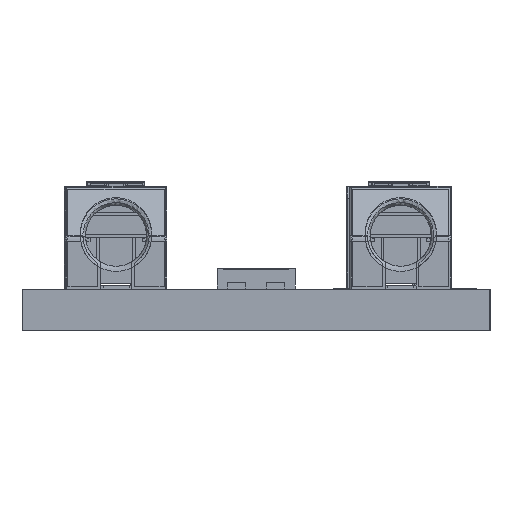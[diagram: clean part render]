
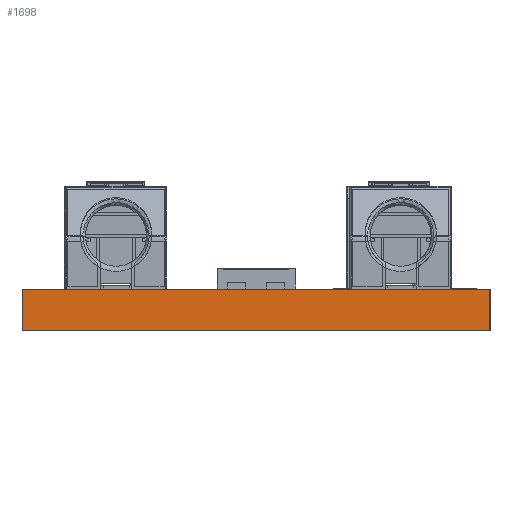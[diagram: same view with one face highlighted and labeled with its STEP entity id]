
A CAD part, left-side view. The second image highlights one B-rep face of the part: STEP entity #1698.
In plain terms, the highlighted planar face has unit normal (-1, 0, 0).
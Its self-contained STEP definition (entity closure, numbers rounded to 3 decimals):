
#1698=ADVANCED_FACE('',(#5332),#3527,.F.);
#3527=PLANE('',#40967);
#5332=FACE_OUTER_BOUND('',#7319,.T.);
#7319=EDGE_LOOP('',(#14152,#14153,#14154,#14155));
#14152=ORIENTED_EDGE('',*,*,#25571,.T.);
#14153=ORIENTED_EDGE('',*,*,#25572,.F.);
#14154=ORIENTED_EDGE('',*,*,#25573,.F.);
#14155=ORIENTED_EDGE('',*,*,#25569,.T.);
#20996=VERTEX_POINT('',#76582);
#20997=VERTEX_POINT('',#76584);
#20998=VERTEX_POINT('',#76596);
#20999=VERTEX_POINT('',#76598);
#25569=EDGE_CURVE('',#20997,#20996,#32353,.T.);
#25571=EDGE_CURVE('',#20996,#20998,#28180,.T.);
#25572=EDGE_CURVE('',#20999,#20998,#32354,.T.);
#25573=EDGE_CURVE('',#20997,#20999,#28181,.T.);
#28180=(
BOUNDED_CURVE()
B_SPLINE_CURVE(4,(#76591,#76592,#76593,#76594,#76595),.UNSPECIFIED.,.F.,
 .F.)
B_SPLINE_CURVE_WITH_KNOTS((5,5),(0.,1.),.UNSPECIFIED.)
CURVE()
GEOMETRIC_REPRESENTATION_ITEM()
RATIONAL_B_SPLINE_CURVE((1.,1.,1.,1.,1.))
REPRESENTATION_ITEM('')
);
#28181=(
BOUNDED_CURVE()
B_SPLINE_CURVE(4,(#76599,#76600,#76601,#76602,#76603),.UNSPECIFIED.,.F.,
 .F.)
B_SPLINE_CURVE_WITH_KNOTS((5,5),(0.,1.),.UNSPECIFIED.)
CURVE()
GEOMETRIC_REPRESENTATION_ITEM()
RATIONAL_B_SPLINE_CURVE((1.,1.,1.,1.,1.))
REPRESENTATION_ITEM('')
);
#32353=LINE('',#76583,#37482);
#32354=LINE('',#76597,#37483);
#37482=VECTOR('',#47596,1.);
#37483=VECTOR('',#47599,1.);
#40967=AXIS2_PLACEMENT_3D('',#76604,#47600,#47601);
#47596=DIRECTION('',(0.,0.,1.));
#47599=DIRECTION('',(0.,0.,1.));
#47600=DIRECTION('',(1.,0.,0.));
#47601=DIRECTION('',(0.,0.,-1.));
#76582=CARTESIAN_POINT('',(0.,0.,0.));
#76583=CARTESIAN_POINT('',(0.,0.,-1.6));
#76584=CARTESIAN_POINT('',(0.,0.,-1.6));
#76591=CARTESIAN_POINT('',(0.,0.,0.));
#76592=CARTESIAN_POINT('',(0.,4.5,0.));
#76593=CARTESIAN_POINT('',(0.,8.999,0.));
#76594=CARTESIAN_POINT('',(0.,13.499,0.));
#76595=CARTESIAN_POINT('',(0.,17.999,0.));
#76596=CARTESIAN_POINT('',(0.,17.999,0.));
#76597=CARTESIAN_POINT('',(0.,17.999,-1.6));
#76598=CARTESIAN_POINT('',(0.,17.999,-1.6));
#76599=CARTESIAN_POINT('',(0.,0.,-1.6));
#76600=CARTESIAN_POINT('',(0.,4.5,-1.6));
#76601=CARTESIAN_POINT('',(0.,8.999,-1.6));
#76602=CARTESIAN_POINT('',(0.,13.499,-1.6));
#76603=CARTESIAN_POINT('',(0.,17.999,-1.6));
#76604=CARTESIAN_POINT('',(0.,0.,-1.6));
